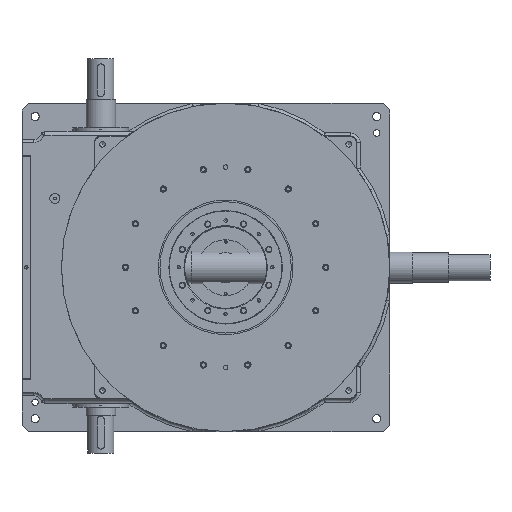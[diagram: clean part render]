
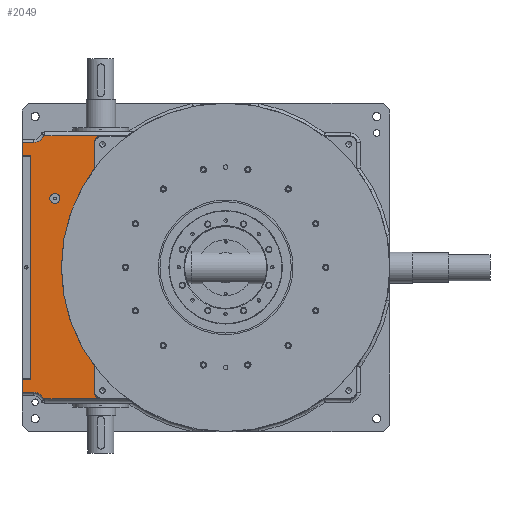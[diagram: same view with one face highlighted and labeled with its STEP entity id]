
A CAD part, top view. The second image highlights one B-rep face of the part: STEP entity #2049.
In plain terms, the highlighted planar face has unit normal (0, 0, 1).
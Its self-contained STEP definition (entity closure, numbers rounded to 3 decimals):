
#2049 = ADVANCED_FACE( '', ( #5055, #5056 ), #5057, .F. );
#5055 = FACE_BOUND( '', #9783, .T. );
#5056 = FACE_OUTER_BOUND( '', #9784, .T. );
#5057 = PLANE( '', #9785 );
#9783 = EDGE_LOOP( '', ( #16773 ) );
#9784 = EDGE_LOOP( '', ( #16774, #16775, #16776, #16777, #16778, #16779, #16780, #16781, #16782, #16783, #16784, #16785, #16786, #16787, #16788, #16789 ) );
#9785 = AXIS2_PLACEMENT_3D( '', #16790, #16791, #16792 );
#16773 = ORIENTED_EDGE( '', *, *, #26126, .T. );
#16774 = ORIENTED_EDGE( '', *, *, #25193, .T. );
#16775 = ORIENTED_EDGE( '', *, *, #24503, .T. );
#16776 = ORIENTED_EDGE( '', *, *, #26127, .T. );
#16777 = ORIENTED_EDGE( '', *, *, #26128, .T. );
#16778 = ORIENTED_EDGE( '', *, *, #26129, .T. );
#16779 = ORIENTED_EDGE( '', *, *, #26130, .T. );
#16780 = ORIENTED_EDGE( '', *, *, #25004, .T. );
#16781 = ORIENTED_EDGE( '', *, *, #26131, .T. );
#16782 = ORIENTED_EDGE( '', *, *, #26132, .T. );
#16783 = ORIENTED_EDGE( '', *, *, #26133, .T. );
#16784 = ORIENTED_EDGE( '', *, *, #26134, .T. );
#16785 = ORIENTED_EDGE( '', *, *, #26135, .T. );
#16786 = ORIENTED_EDGE( '', *, *, #26136, .T. );
#16787 = ORIENTED_EDGE( '', *, *, #26137, .T. );
#16788 = ORIENTED_EDGE( '', *, *, #25262, .T. );
#16789 = ORIENTED_EDGE( '', *, *, #26138, .T. );
#16790 = CARTESIAN_POINT( '', ( -685.776, 651.449, 488. ) );
#16791 = DIRECTION( '', ( 0., 0., -1. ) );
#16792 = DIRECTION( '', ( -1., 0., 0. ) );
#24503 = EDGE_CURVE( '', #29089, #29093, #29095, .T. );
#25004 = EDGE_CURVE( '', #29969, #29976, #29978, .T. );
#25193 = EDGE_CURVE( '', #30291, #29089, #30292, .T. );
#25262 = EDGE_CURVE( '', #30402, #30406, #30408, .T. );
#26126 = EDGE_CURVE( '', #31808, #31808, #31809, .T. );
#26127 = EDGE_CURVE( '', #29093, #31810, #31811, .T. );
#26128 = EDGE_CURVE( '', #31810, #31812, #31813, .T. );
#26129 = EDGE_CURVE( '', #31812, #31814, #31815, .T. );
#26130 = EDGE_CURVE( '', #31814, #29969, #31816, .T. );
#26131 = EDGE_CURVE( '', #29976, #31817, #31818, .T. );
#26132 = EDGE_CURVE( '', #31817, #31819, #31820, .T. );
#26133 = EDGE_CURVE( '', #31819, #31821, #31822, .T. );
#26134 = EDGE_CURVE( '', #31821, #31823, #31824, .T. );
#26135 = EDGE_CURVE( '', #31823, #31825, #31826, .T. );
#26136 = EDGE_CURVE( '', #31825, #31827, #31828, .T. );
#26137 = EDGE_CURVE( '', #31827, #30402, #31829, .T. );
#26138 = EDGE_CURVE( '', #30406, #30291, #31830, .T. );
#29089 = VERTEX_POINT( '', #36300 );
#29093 = VERTEX_POINT( '', #36306 );
#29095 = LINE( '', #36309, #36310 );
#29969 = VERTEX_POINT( '', #38256 );
#29976 = VERTEX_POINT( '', #38266 );
#29978 = LINE( '', #38269, #38270 );
#30291 = VERTEX_POINT( '', #38880 );
#30292 = LINE( '', #38881, #38882 );
#30402 = VERTEX_POINT( '', #39202 );
#30406 = VERTEX_POINT( '', #39208 );
#30408 = LINE( '', #39211, #39212 );
#31808 = VERTEX_POINT( '', #41400 );
#31809 = CIRCLE( '', #41401, 15. );
#31810 = VERTEX_POINT( '', #41402 );
#31811 = LINE( '', #41403, #41404 );
#31812 = VERTEX_POINT( '', #41405 );
#31813 = LINE( '', #41406, #41407 );
#31814 = VERTEX_POINT( '', #41408 );
#31815 = LINE( '', #41409, #41410 );
#31816 = CIRCLE( '', #41411, 35. );
#31817 = VERTEX_POINT( '', #41412 );
#31818 = CIRCLE( '', #41413, 20. );
#31819 = VERTEX_POINT( '', #41414 );
#31820 = LINE( '', #41415, #41416 );
#31821 = VERTEX_POINT( '', #41417 );
#31822 = CIRCLE( '', #41418, 500. );
#31823 = VERTEX_POINT( '', #41419 );
#31824 = LINE( '', #41420, #41421 );
#31825 = VERTEX_POINT( '', #41422 );
#31826 = CIRCLE( '', #41423, 20. );
#31827 = VERTEX_POINT( '', #41424 );
#31828 = LINE( '', #41425, #41426 );
#31829 = CIRCLE( '', #41427, 35. );
#31830 = LINE( '', #41428, #41429 );
#36300 = CARTESIAN_POINT( '', ( -594., 340., 488. ) );
#36306 = CARTESIAN_POINT( '', ( -594., -340., 488. ) );
#36309 = CARTESIAN_POINT( '', ( -594., 340., 488. ) );
#36310 = VECTOR( '', #47581, 1000. );
#38256 = CARTESIAN_POINT( '', ( -553.377, -400., 488. ) );
#38266 = CARTESIAN_POINT( '', ( -380., -400., 488. ) );
#38269 = CARTESIAN_POINT( '', ( -685.776, -400., 488. ) );
#38270 = VECTOR( '', #48124, 1000. );
#38880 = CARTESIAN_POINT( '', ( -620., 340., 488. ) );
#38881 = CARTESIAN_POINT( '', ( -594., 340., 488. ) );
#38882 = VECTOR( '', #48370, 1000. );
#39202 = CARTESIAN_POINT( '', ( -585., 380., 488. ) );
#39208 = CARTESIAN_POINT( '', ( -620., 380., 488. ) );
#39211 = CARTESIAN_POINT( '', ( -750., 380., 488. ) );
#39212 = VECTOR( '', #48441, 1000. );
#41400 = CARTESIAN_POINT( '', ( -520., 195., 488. ) );
#41401 = AXIS2_PLACEMENT_3D( '', #49521, #49522, #49523 );
#41402 = CARTESIAN_POINT( '', ( -620., -340., 488. ) );
#41403 = CARTESIAN_POINT( '', ( -594., -340., 488. ) );
#41404 = VECTOR( '', #49524, 1000. );
#41405 = CARTESIAN_POINT( '', ( -620., -380., 488. ) );
#41406 = CARTESIAN_POINT( '', ( -620., -500., 488. ) );
#41407 = VECTOR( '', #49525, 1000. );
#41408 = CARTESIAN_POINT( '', ( -585., -380., 488. ) );
#41409 = CARTESIAN_POINT( '', ( -750., -380., 488. ) );
#41410 = VECTOR( '', #49526, 1000. );
#41411 = AXIS2_PLACEMENT_3D( '', #49527, #49528, #49529 );
#41412 = CARTESIAN_POINT( '', ( -400., -380., 488. ) );
#41413 = AXIS2_PLACEMENT_3D( '', #49530, #49531, #49532 );
#41414 = CARTESIAN_POINT( '', ( -400., -300., 488. ) );
#41415 = CARTESIAN_POINT( '', ( -400., -300., 488. ) );
#41416 = VECTOR( '', #49533, 1000. );
#41417 = CARTESIAN_POINT( '', ( -400., 300., 488. ) );
#41418 = AXIS2_PLACEMENT_3D( '', #49534, #49535, #49536 );
#41419 = CARTESIAN_POINT( '', ( -400., 380., 488. ) );
#41420 = CARTESIAN_POINT( '', ( -400., 400., 488. ) );
#41421 = VECTOR( '', #49537, 1000. );
#41422 = CARTESIAN_POINT( '', ( -380., 400., 488. ) );
#41423 = AXIS2_PLACEMENT_3D( '', #49538, #49539, #49540 );
#41424 = CARTESIAN_POINT( '', ( -553.377, 400., 488. ) );
#41425 = CARTESIAN_POINT( '', ( -685.776, 400., 488. ) );
#41426 = VECTOR( '', #49541, 1000. );
#41427 = AXIS2_PLACEMENT_3D( '', #49542, #49543, #49544 );
#41428 = CARTESIAN_POINT( '', ( -620., -500., 488. ) );
#41429 = VECTOR( '', #49545, 1000. );
#47581 = DIRECTION( '', ( 0., -1., 0. ) );
#48124 = DIRECTION( '', ( 1., 0., 0. ) );
#48370 = DIRECTION( '', ( 1., 0., 0. ) );
#48441 = DIRECTION( '', ( -1., 0., 0. ) );
#49521 = CARTESIAN_POINT( '', ( -520., 210., 488. ) );
#49522 = DIRECTION( '', ( 0., 0., -1. ) );
#49523 = DIRECTION( '', ( 0., -1., 0. ) );
#49524 = DIRECTION( '', ( -1., 0., 0. ) );
#49525 = DIRECTION( '', ( 0., -1., 0. ) );
#49526 = DIRECTION( '', ( 1., 0., 0. ) );
#49527 = CARTESIAN_POINT( '', ( -585., -415., 488. ) );
#49528 = DIRECTION( '', ( 0., 0., -1. ) );
#49529 = DIRECTION( '', ( -1., 0., 0. ) );
#49530 = CARTESIAN_POINT( '', ( -380., -380., 488. ) );
#49531 = DIRECTION( '', ( 0., 0., -1. ) );
#49532 = DIRECTION( '', ( -1., 0., 0. ) );
#49533 = DIRECTION( '', ( 0., 1., 0. ) );
#49534 = CARTESIAN_POINT( '', ( 0., 0., 488. ) );
#49535 = DIRECTION( '', ( 0., 0., -1. ) );
#49536 = DIRECTION( '', ( 1., 0., 0. ) );
#49537 = DIRECTION( '', ( 0., 1., 0. ) );
#49538 = CARTESIAN_POINT( '', ( -380., 380., 488. ) );
#49539 = DIRECTION( '', ( 0., 0., -1. ) );
#49540 = DIRECTION( '', ( -1., 0., 0. ) );
#49541 = DIRECTION( '', ( -1., 0., 0. ) );
#49542 = CARTESIAN_POINT( '', ( -585., 415., 488. ) );
#49543 = DIRECTION( '', ( 0., 0., -1. ) );
#49544 = DIRECTION( '', ( 1., 0., 0. ) );
#49545 = DIRECTION( '', ( 0., -1., 0. ) );
